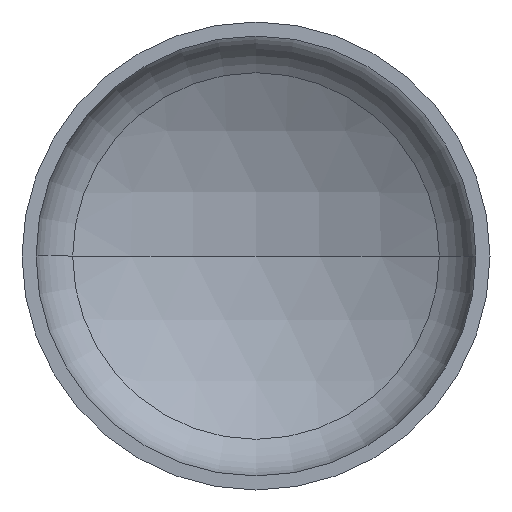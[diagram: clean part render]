
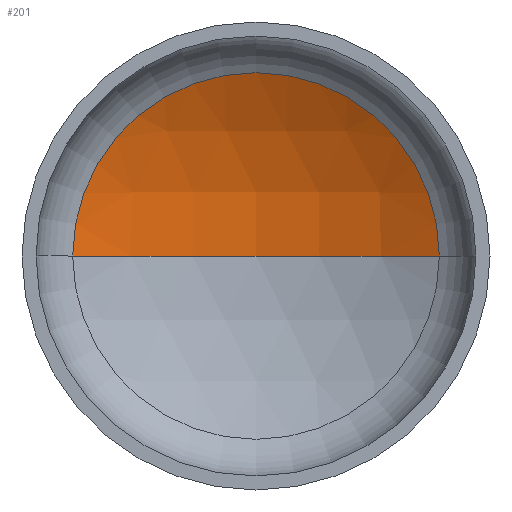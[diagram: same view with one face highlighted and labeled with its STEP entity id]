
A CAD part, front view. The second image highlights one B-rep face of the part: STEP entity #201.
In plain terms, the highlighted spherical face has radius 2240 mm.
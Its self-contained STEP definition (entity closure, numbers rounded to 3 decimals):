
#21 = EDGE_LOOP ( 'NONE', ( #101, #23, #92 ) ) ;
#23 = ORIENTED_EDGE ( 'NONE', *, *, #102, .T. ) ;
#28 = DIRECTION ( 'NONE',  ( 1., 0., 0. ) ) ;
#29 = AXIS2_PLACEMENT_3D ( 'NONE', #207, #219, #294 ) ;
#33 = DIRECTION ( 'NONE',  ( 0., 0., 1. ) ) ;
#37 = VERTEX_POINT ( 'NONE', #266 ) ;
#42 = AXIS2_PLACEMENT_3D ( 'NONE', #45, #33, #28 ) ;
#45 = CARTESIAN_POINT ( 'NONE',  ( 0., -1478.323, 0. ) ) ;
#46 = AXIS2_PLACEMENT_3D ( 'NONE', #198, #251, #408 ) ;
#49 = CARTESIAN_POINT ( 'NONE',  ( -1096.486, 474.961, 0. ) ) ;
#50 = AXIS2_PLACEMENT_3D ( 'NONE', #218, #214, #217 ) ;
#92 = ORIENTED_EDGE ( 'NONE', *, *, #100, .T. ) ;
#100 = EDGE_CURVE ( 'NONE', #37, #286, #386, .T. ) ;
#101 = ORIENTED_EDGE ( 'NONE', *, *, #107, .F. ) ;
#102 = EDGE_CURVE ( 'NONE', #123, #37, #267, .T. ) ;
#107 = EDGE_CURVE ( 'NONE', #123, #286, #314, .T. ) ;
#123 = VERTEX_POINT ( 'NONE', #274 ) ;
#184 = FACE_OUTER_BOUND ( 'NONE', #21, .T. ) ;
#198 = CARTESIAN_POINT ( 'NONE',  ( 0., -1478.323, 0. ) ) ;
#201 = ADVANCED_FACE ( 'NONE', ( #184 ), #372, .F. ) ;
#207 = CARTESIAN_POINT ( 'NONE',  ( 0., -1478.323, 0. ) ) ;
#214 = DIRECTION ( 'NONE',  ( 0., -1., 0. ) ) ;
#217 = DIRECTION ( 'NONE',  ( 1., 0., 0. ) ) ;
#218 = CARTESIAN_POINT ( 'NONE',  ( 0., 474.961, 0. ) ) ;
#219 = DIRECTION ( 'NONE',  ( 0., 0., -1. ) ) ;
#251 = DIRECTION ( 'NONE',  ( 0., 0., -1. ) ) ;
#266 = CARTESIAN_POINT ( 'NONE',  ( 1096.486, 474.961, 0. ) ) ;
#267 = CIRCLE ( 'NONE', #46, 2240. ) ;
#274 = CARTESIAN_POINT ( 'NONE',  ( 0., 761.677, 0. ) ) ;
#286 = VERTEX_POINT ( 'NONE', #49 ) ;
#294 = DIRECTION ( 'NONE',  ( -1., 0., 0. ) ) ;
#314 = CIRCLE ( 'NONE', #42, 2240. ) ;
#372 = SPHERICAL_SURFACE ( 'NONE', #29, 2240. ) ;
#386 = CIRCLE ( 'NONE', #50, 1096.486 ) ;
#408 = DIRECTION ( 'NONE',  ( -1., 0., 0. ) ) ;
